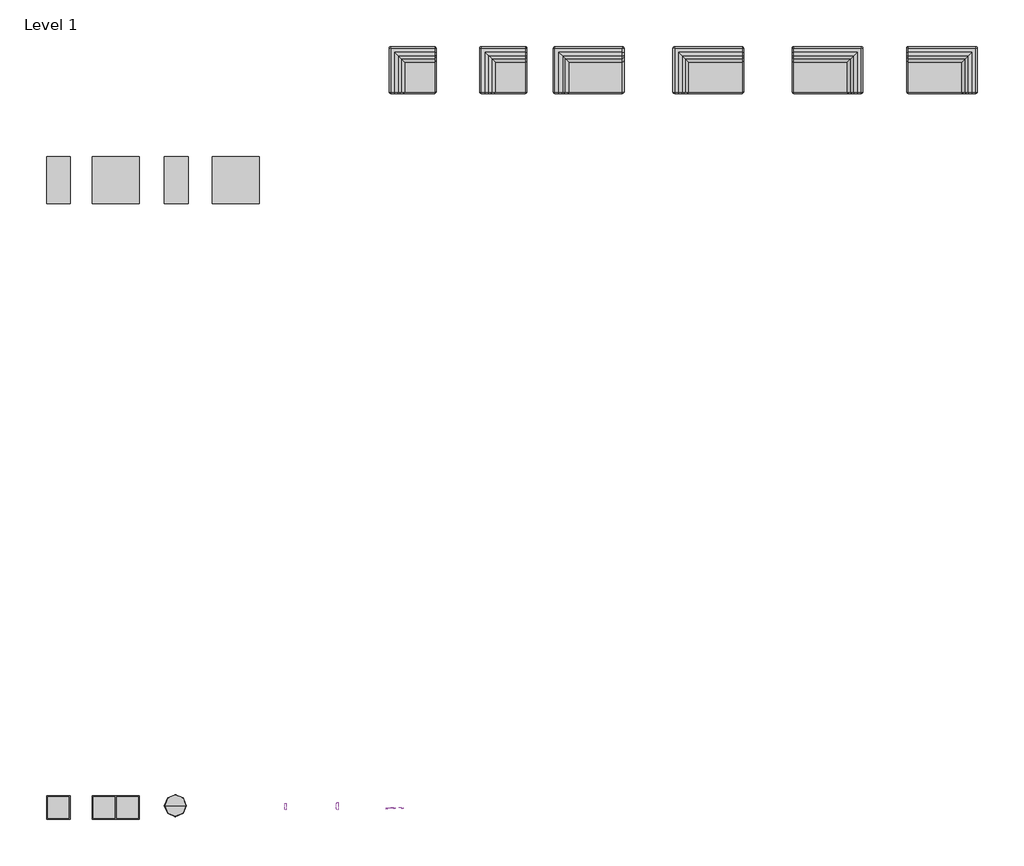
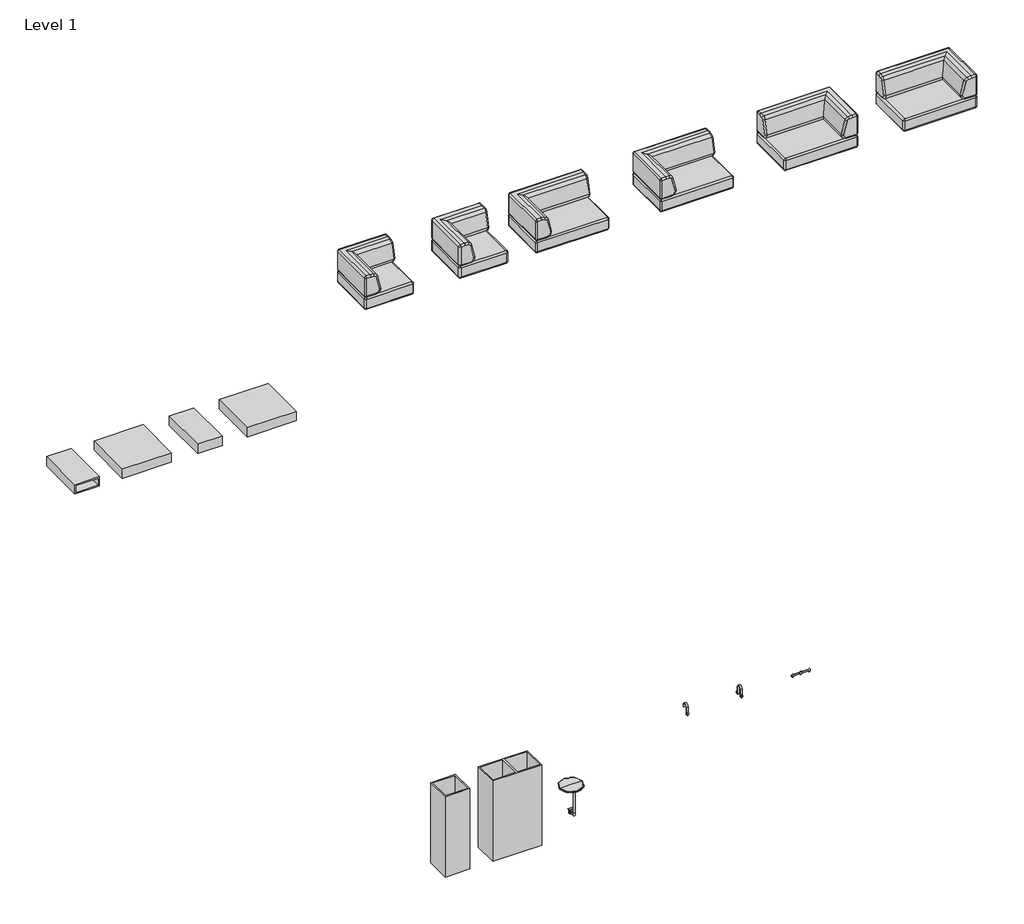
# One storey, incomplete: 16 furniture elements.
"""IFC4 building model written with IfcOpenShell, lengths in millimetres."""

from ifc_helpers import new_model, si_unit, origin, place, context, project, spatial, transform, mapped, element, save
from components import furniture_f42f69dd, furniture_b63acceb, furniture_d30c1062, corner_seat_dual_upholstery_8187921d, corner_seat_plus_left_hand_dual_upholstery_20e1f833, corner_seat_plus_right_hand_dual_upholstery_e764b7b8, double_d9ba1d5d, double_013c9e70, furniture_aa15e3dd, single_1c9934fe, single_72c28b5a, single_swivel_5870ec6f

model = new_model("IFC4")

# Units and contexts
model_context = context("Model", 3, world=origin())
ifc_project = project(units=[si_unit("LENGTHUNIT", "METRE", prefix="MILLI")], contexts=[model_context])

# Site, building, storey
site = spatial("IfcSite", under=ifc_project)
building = spatial("IfcBuilding", under=site)
storey = spatial("IfcBuildingStorey", under=building, Name="Level 1", Elevation=0.0)

# Furniture
placement = place(None, origin())
furniture_shape = furniture_f42f69dd(model_context)
element("IfcFurniture", 1, ObjectType="Stylex - Ambi - Coat Hook Planter : Stylex - Ambi - Coat Hook Planter", at=placement, inside=storey, context=model_context, shape_type="MappedRepresentation", body=[
    mapped(furniture_shape, transform((-5995.8604191, -10565.5052106, 0.0), x_axis=(1.0, 0.0, 0.0), y_axis=(0.0, 1.0, 0.0), z_axis=(0.0, 0.0, 1.0))),
])
furniture_2_shape = furniture_b63acceb(model_context)
element("IfcFurniture", 2, ObjectType="Stylex - Ambi Modular - Box : Box - 15\" x 30\"", at=placement, inside=storey, context=model_context, shape_type="MappedRepresentation", body=[
    mapped(furniture_2_shape, transform((-9525.1506393, -418.2430985, 0.0), x_axis=(1.0, 0.0, 0.0), y_axis=(0.0, 1.0, 0.0), z_axis=(0.0, 0.0, 1.0))),
])
furniture_3_shape = furniture_d30c1062(model_context)
element("IfcFurniture", 3, ObjectType="Stylex - Ambi Modular - Box : Box - 30\" x 30\"", at=placement, inside=storey, context=model_context, shape_type="MappedRepresentation", body=[
    mapped(furniture_3_shape, transform((-8562.0672778, -418.2430985, 0.0), x_axis=(1.0, 0.0, 0.0), y_axis=(0.0, 1.0, 0.0), z_axis=(0.0, 0.0, 1.0))),
])
element("IfcFurniture", 4, ObjectType="Stylex - Ambi Modular - Box : Corner - 30\" x 30\"", at=placement, inside=storey, context=model_context, shape_type="MappedRepresentation", body=[
    mapped(furniture_3_shape, transform((-10502.4556355, -418.2430985, 0.0), x_axis=(1.0, 0.0, 0.0), y_axis=(0.0, 1.0, 0.0), z_axis=(0.0, 0.0, 1.0))),
])
corner_seat_dual_upholstery_shape = corner_seat_dual_upholstery_8187921d(model_context)
element("IfcFurniture", 5, ObjectType="Stylex - Ambi Modular - Seat : Corner Seat - Dual Upholstery", at=placement, inside=storey, context=model_context, shape_type="MappedRepresentation", body=[
    mapped(corner_seat_dual_upholstery_shape, transform((-4241.9357242, 1359.6948713, 0.0), x_axis=(1.0, 0.0, 0.0), y_axis=(0.0, 1.0, 0.0), z_axis=(0.0, 0.0, 1.0))),
])
element("IfcFurniture", 6, ObjectType="Stylex - Ambi Modular - Seat : Corner Seat - Standard Upholstery", at=placement, inside=storey, context=model_context, shape_type="MappedRepresentation", body=[
    mapped(corner_seat_dual_upholstery_shape, transform((-5705.8494657, 1359.6948713, 0.0), x_axis=(1.0, 0.0, 0.0), y_axis=(0.0, 1.0, 0.0), z_axis=(0.0, 0.0, 1.0))),
])
corner_seat_plus_left_hand_dual_upholstery_shape = corner_seat_plus_left_hand_dual_upholstery_20e1f833(model_context)
element("IfcFurniture", 7, ObjectType="Stylex - Ambi Modular - Seat : Corner Seat Plus - Left Hand - Dual Upholstery", at=placement, inside=storey, context=model_context, shape_type="MappedRepresentation", body=[
    mapped(corner_seat_plus_left_hand_dual_upholstery_shape, transform((2850.4371389, 1359.6948713, 0.0), x_axis=(1.0, 0.0, 0.0), y_axis=(0.0, 1.0, 0.0), z_axis=(0.0, 0.0, 1.0))),
])
element("IfcFurniture", 8, ObjectType="Stylex - Ambi Modular - Seat : Corner Seat Plus - Left Hand - Standard Upholstery", at=placement, inside=storey, context=model_context, shape_type="MappedRepresentation", body=[
    mapped(corner_seat_plus_left_hand_dual_upholstery_shape, transform((999.7505343, 1359.6948713, 0.0), x_axis=(1.0, 0.0, 0.0), y_axis=(0.0, 1.0, 0.0), z_axis=(0.0, 0.0, 1.0))),
])
corner_seat_plus_right_hand_dual_upholstery_shape = corner_seat_plus_right_hand_dual_upholstery_e764b7b8(model_context)
element("IfcFurniture", 9, ObjectType="Stylex - Ambi Modular - Seat : Corner Seat Plus - Right Hand - Dual Upholstery", at=placement, inside=storey, context=model_context, shape_type="MappedRepresentation", body=[
    mapped(corner_seat_plus_right_hand_dual_upholstery_shape, transform((-926.9265824, 1359.6948713, 0.0), x_axis=(1.0, 0.0, 0.0), y_axis=(0.0, 1.0, 0.0), z_axis=(0.0, 0.0, 1.0))),
])
element("IfcFurniture", 10, ObjectType="Stylex - Ambi Modular - Seat : Corner Seat Plus - Right Hand - Standard Upholstery", at=placement, inside=storey, context=model_context, shape_type="MappedRepresentation", body=[
    mapped(corner_seat_plus_right_hand_dual_upholstery_shape, transform((-2861.0494657, 1359.6948713, 0.0), x_axis=(1.0, 0.0, 0.0), y_axis=(0.0, 1.0, 0.0), z_axis=(0.0, 0.0, 1.0))),
])
double_shape = double_d9ba1d5d(model_context)
element("IfcFurniture", 11, ObjectType="Stylex - Ambi - Coat Hook : Double", at=placement, inside=storey, context=model_context, shape_type="MappedRepresentation", body=[
    mapped(double_shape, transform((-6922.4764951, -10540.1052106, 0.0), x_axis=(1.0, 0.0, 0.0), y_axis=(0.0, 1.0, 0.0), z_axis=(0.0, 0.0, 1.0))),
])
double_2_shape = double_013c9e70(model_context)
element("IfcFurniture", 12, ObjectType="Stylex - Ambi - Planter : Double", at=placement, inside=storey, context=model_context, shape_type="MappedRepresentation", body=[
    mapped(double_2_shape, transform((-10502.4957395, -10565.5052106, 0.0), x_axis=(1.0, 0.0, 0.0), y_axis=(0.0, 1.0, 0.0), z_axis=(0.0, 0.0, 1.0))),
])
furniture_4_shape = furniture_aa15e3dd(model_context)
element("IfcFurniture", 13, ObjectType="Stylex - Ambi Modular - Box : Shelf - 15\" x 30\"", at=placement, inside=storey, context=model_context, shape_type="MappedRepresentation", body=[
    mapped(furniture_4_shape, transform((-11431.2637589, -418.2430985, 0.0), x_axis=(1.0, 0.0, 0.0), y_axis=(0.0, 1.0, 0.0), z_axis=(0.0, 0.0, 1.0))),
])
single_shape = single_1c9934fe(model_context)
element("IfcFurniture", 14, ObjectType="Stylex - Ambi - Coat Hook : Single", at=placement, inside=storey, context=model_context, shape_type="MappedRepresentation", body=[
    mapped(single_shape, transform((-7760.6764951, -10540.1052106, 0.0), x_axis=(1.0, 0.0, 0.0), y_axis=(0.0, 1.0, 0.0), z_axis=(0.0, 0.0, 1.0))),
])
single_2_shape = single_72c28b5a(model_context)
element("IfcFurniture", 15, ObjectType="Stylex - Ambi - Planter : Single", at=placement, inside=storey, context=model_context, shape_type="MappedRepresentation", body=[
    mapped(single_2_shape, transform((-11430.9764951, -10565.5052106, 0.0), x_axis=(1.0, 0.0, 0.0), y_axis=(0.0, 1.0, 0.0), z_axis=(0.0, 0.0, 1.0))),
])
single_swivel_shape = single_swivel_5870ec6f(model_context)
element("IfcFurniture", 16, ObjectType="Stylex - Ambi - Tablet Arm : Single Swivel", at=placement, inside=storey, context=model_context, shape_type="MappedRepresentation", body=[
    mapped(single_swivel_shape, transform((-9538.6764951, -10541.5530106, 0.0), x_axis=(1.0, 0.0, 0.0), y_axis=(0.0, 1.0, 0.0), z_axis=(0.0, 0.0, 1.0))),
])

save(model, "model.ifc")
